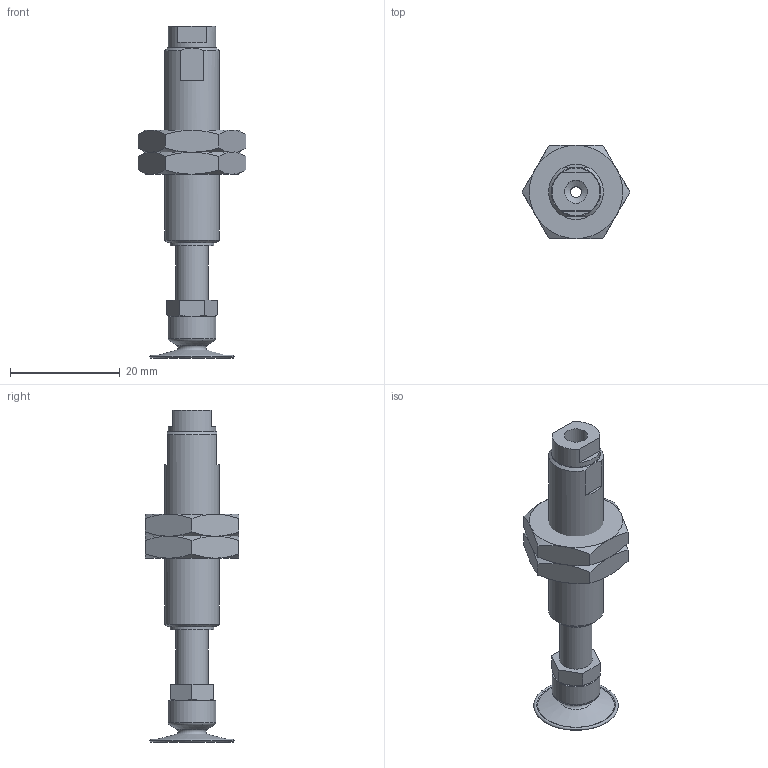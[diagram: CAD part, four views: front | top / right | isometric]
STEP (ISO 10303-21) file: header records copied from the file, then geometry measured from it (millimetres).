
FILE_DESCRIPTION(('STEP AP203'),'1');
FILE_NAME('-LB.stp','2025-04-01T04:50:47',(' '),(' '),'Spatial InterOp 3D',' ',' ');
FILE_SCHEMA(('CONFIG_CONTROL_DESIGN'));
Length unit declared in the file: millimetre
Products named in the file (8): BNAPFTH-10A-10-※-LB; __; BODY; NUT; TN-PS-10-M5; Setting screws-TN-PS-10-M5; BPAG-15B
Assembly tree (7 placements, depth 3):
  BNAPFTH-10A-10-※-LB
    __
    BODY
    NUT
    NUT
    TN-PS-10-M5
      Setting screws-TN-PS-10-M5
    BPAG-15B
Bounding box: 19.63 x 17 x 60.5 mm (x, y, z)
Volume: 5065.8 mm3; surface area: 4553.6 mm2
Topology: 6 solids, 6 shells, 168 faces, 375 edges, 227 vertices
Faces by surface type: plane 78, cone 50, cylinder 31, torus 9
Full cylindrical faces by diameter (mm): 2 x3, 3.9 x1, 4 x2, 4.2 x2, 5 x1, 6 x3, 8 x1, 8.5 x1, 8.7 x2, 9 x2, 10 x1
Entity records: 4898 total; most frequent: CARTESIAN_POINT 1032, DIRECTION 728, ORIENTED_EDGE 654, EDGE_CURVE 327, AXIS2_PLACEMENT_3D 303, EDGE_LOOP 226, VERTEX_POINT 217, FACE_OUTER_BOUND 196
